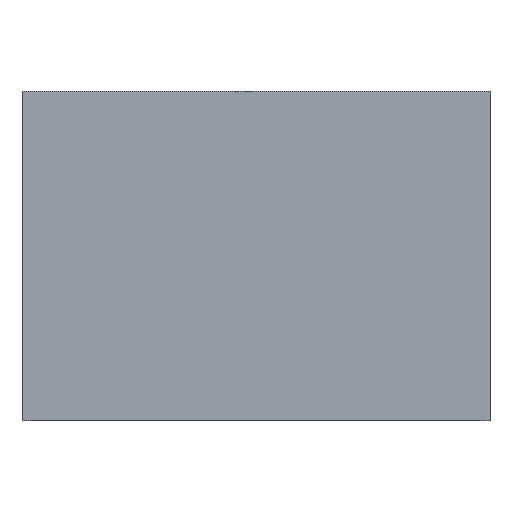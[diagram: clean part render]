
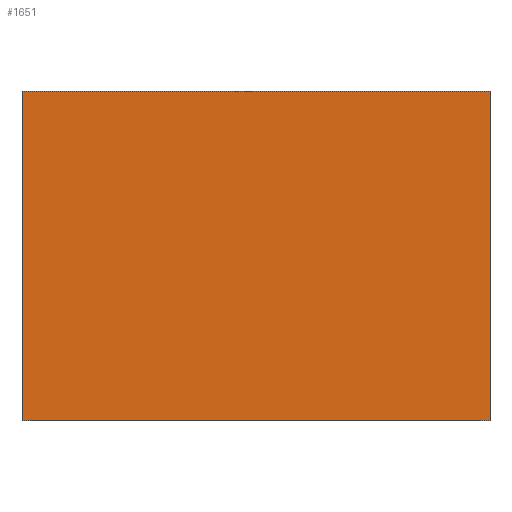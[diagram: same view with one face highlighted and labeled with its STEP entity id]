
A CAD part, top view. The second image highlights one B-rep face of the part: STEP entity #1651.
In plain terms, the highlighted planar face has unit normal (0, 0, 1).
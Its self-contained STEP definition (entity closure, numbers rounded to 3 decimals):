
#24 = VERTEX_POINT('',#25);
#25 = CARTESIAN_POINT('',(0.,3.,100.));
#32 = PLANE('',#33);
#33 = AXIS2_PLACEMENT_3D('',#34,#35,#36);
#34 = CARTESIAN_POINT('',(0.,3.,0.));
#35 = DIRECTION('',(1.,0.,0.));
#36 = DIRECTION('',(0.,0.,1.));
#44 = PLANE('',#45);
#45 = AXIS2_PLACEMENT_3D('',#46,#47,#48);
#46 = CARTESIAN_POINT('',(0.,3.,0.));
#47 = DIRECTION('',(0.,1.,0.));
#48 = DIRECTION('',(0.,0.,1.));
#85 = VERTEX_POINT('',#86);
#86 = CARTESIAN_POINT('',(0.,112.,100.));
#100 = PLANE('',#101);
#101 = AXIS2_PLACEMENT_3D('',#102,#103,#104);
#102 = CARTESIAN_POINT('',(0.,112.,0.));
#103 = DIRECTION('',(0.,1.,0.));
#104 = DIRECTION('',(0.,0.,1.));
#112 = EDGE_CURVE('',#24,#85,#113,.T.);
#113 = SURFACE_CURVE('',#114,(#118,#125),.PCURVE_S1.);
#114 = LINE('',#115,#116);
#115 = CARTESIAN_POINT('',(0.,3.,100.));
#116 = VECTOR('',#117,1.);
#117 = DIRECTION('',(0.,1.,0.));
#118 = PCURVE('',#32,#119);
#119 = DEFINITIONAL_REPRESENTATION('',(#120),#124);
#120 = LINE('',#121,#122);
#121 = CARTESIAN_POINT('',(100.,0.));
#122 = VECTOR('',#123,1.);
#123 = DIRECTION('',(0.,-1.));
#124 = ( GEOMETRIC_REPRESENTATION_CONTEXT(2) 
PARAMETRIC_REPRESENTATION_CONTEXT() REPRESENTATION_CONTEXT('2D SPACE',''
  ) );
#125 = PCURVE('',#126,#131);
#126 = PLANE('',#127);
#127 = AXIS2_PLACEMENT_3D('',#128,#129,#130);
#128 = CARTESIAN_POINT('',(0.,3.,100.));
#129 = DIRECTION('',(0.,0.,1.));
#130 = DIRECTION('',(1.,0.,0.));
#131 = DEFINITIONAL_REPRESENTATION('',(#132),#136);
#132 = LINE('',#133,#134);
#133 = CARTESIAN_POINT('',(0.,0.));
#134 = VECTOR('',#135,1.);
#135 = DIRECTION('',(0.,1.));
#136 = ( GEOMETRIC_REPRESENTATION_CONTEXT(2) 
PARAMETRIC_REPRESENTATION_CONTEXT() REPRESENTATION_CONTEXT('2D SPACE',''
  ) );
#1497 = EDGE_CURVE('',#24,#1498,#1500,.T.);
#1498 = VERTEX_POINT('',#1499);
#1499 = CARTESIAN_POINT('',(155.,3.,100.));
#1500 = SURFACE_CURVE('',#1501,(#1505,#1512),.PCURVE_S1.);
#1501 = LINE('',#1502,#1503);
#1502 = CARTESIAN_POINT('',(0.,3.,100.));
#1503 = VECTOR('',#1504,1.);
#1504 = DIRECTION('',(1.,0.,0.));
#1505 = PCURVE('',#44,#1506);
#1506 = DEFINITIONAL_REPRESENTATION('',(#1507),#1511);
#1507 = LINE('',#1508,#1509);
#1508 = CARTESIAN_POINT('',(100.,0.));
#1509 = VECTOR('',#1510,1.);
#1510 = DIRECTION('',(0.,1.));
#1511 = ( GEOMETRIC_REPRESENTATION_CONTEXT(2) 
PARAMETRIC_REPRESENTATION_CONTEXT() REPRESENTATION_CONTEXT('2D SPACE',''
  ) );
#1512 = PCURVE('',#126,#1513);
#1513 = DEFINITIONAL_REPRESENTATION('',(#1514),#1518);
#1514 = LINE('',#1515,#1516);
#1515 = CARTESIAN_POINT('',(0.,0.));
#1516 = VECTOR('',#1517,1.);
#1517 = DIRECTION('',(1.,0.));
#1518 = ( GEOMETRIC_REPRESENTATION_CONTEXT(2) 
PARAMETRIC_REPRESENTATION_CONTEXT() REPRESENTATION_CONTEXT('2D SPACE',''
  ) );
#1534 = PLANE('',#1535);
#1535 = AXIS2_PLACEMENT_3D('',#1536,#1537,#1538);
#1536 = CARTESIAN_POINT('',(155.,3.,0.));
#1537 = DIRECTION('',(1.,0.,0.));
#1538 = DIRECTION('',(0.,0.,1.));
#1651 = ADVANCED_FACE('',(#1652),#126,.T.);
#1652 = FACE_BOUND('',#1653,.T.);
#1653 = EDGE_LOOP('',(#1654,#1655,#1656,#1679));
#1654 = ORIENTED_EDGE('',*,*,#112,.F.);
#1655 = ORIENTED_EDGE('',*,*,#1497,.T.);
#1656 = ORIENTED_EDGE('',*,*,#1657,.T.);
#1657 = EDGE_CURVE('',#1498,#1658,#1660,.T.);
#1658 = VERTEX_POINT('',#1659);
#1659 = CARTESIAN_POINT('',(155.,112.,100.));
#1660 = SURFACE_CURVE('',#1661,(#1665,#1672),.PCURVE_S1.);
#1661 = LINE('',#1662,#1663);
#1662 = CARTESIAN_POINT('',(155.,3.,100.));
#1663 = VECTOR('',#1664,1.);
#1664 = DIRECTION('',(0.,1.,0.));
#1665 = PCURVE('',#126,#1666);
#1666 = DEFINITIONAL_REPRESENTATION('',(#1667),#1671);
#1667 = LINE('',#1668,#1669);
#1668 = CARTESIAN_POINT('',(155.,0.));
#1669 = VECTOR('',#1670,1.);
#1670 = DIRECTION('',(0.,1.));
#1671 = ( GEOMETRIC_REPRESENTATION_CONTEXT(2) 
PARAMETRIC_REPRESENTATION_CONTEXT() REPRESENTATION_CONTEXT('2D SPACE',''
  ) );
#1672 = PCURVE('',#1534,#1673);
#1673 = DEFINITIONAL_REPRESENTATION('',(#1674),#1678);
#1674 = LINE('',#1675,#1676);
#1675 = CARTESIAN_POINT('',(100.,0.));
#1676 = VECTOR('',#1677,1.);
#1677 = DIRECTION('',(0.,-1.));
#1678 = ( GEOMETRIC_REPRESENTATION_CONTEXT(2) 
PARAMETRIC_REPRESENTATION_CONTEXT() REPRESENTATION_CONTEXT('2D SPACE',''
  ) );
#1679 = ORIENTED_EDGE('',*,*,#1680,.F.);
#1680 = EDGE_CURVE('',#85,#1658,#1681,.T.);
#1681 = SURFACE_CURVE('',#1682,(#1686,#1693),.PCURVE_S1.);
#1682 = LINE('',#1683,#1684);
#1683 = CARTESIAN_POINT('',(0.,112.,100.));
#1684 = VECTOR('',#1685,1.);
#1685 = DIRECTION('',(1.,0.,0.));
#1686 = PCURVE('',#126,#1687);
#1687 = DEFINITIONAL_REPRESENTATION('',(#1688),#1692);
#1688 = LINE('',#1689,#1690);
#1689 = CARTESIAN_POINT('',(0.,109.));
#1690 = VECTOR('',#1691,1.);
#1691 = DIRECTION('',(1.,0.));
#1692 = ( GEOMETRIC_REPRESENTATION_CONTEXT(2) 
PARAMETRIC_REPRESENTATION_CONTEXT() REPRESENTATION_CONTEXT('2D SPACE',''
  ) );
#1693 = PCURVE('',#100,#1694);
#1694 = DEFINITIONAL_REPRESENTATION('',(#1695),#1699);
#1695 = LINE('',#1696,#1697);
#1696 = CARTESIAN_POINT('',(100.,0.));
#1697 = VECTOR('',#1698,1.);
#1698 = DIRECTION('',(0.,1.));
#1699 = ( GEOMETRIC_REPRESENTATION_CONTEXT(2) 
PARAMETRIC_REPRESENTATION_CONTEXT() REPRESENTATION_CONTEXT('2D SPACE',''
  ) );
